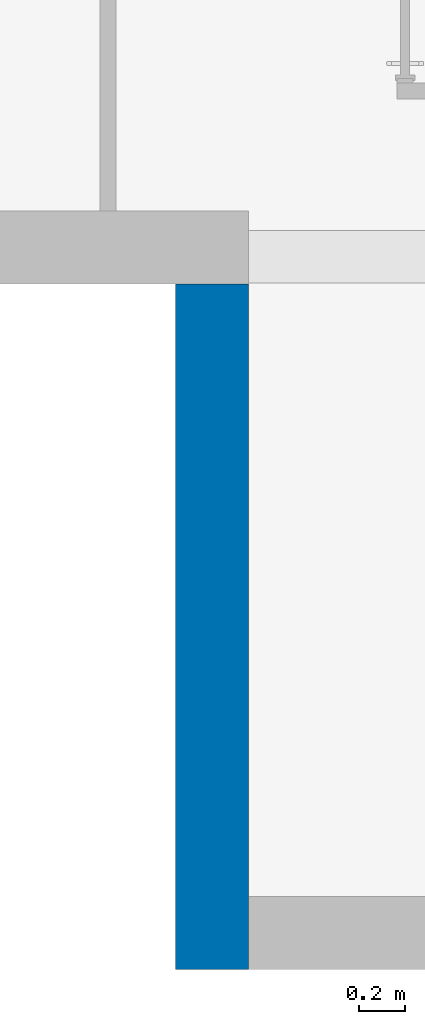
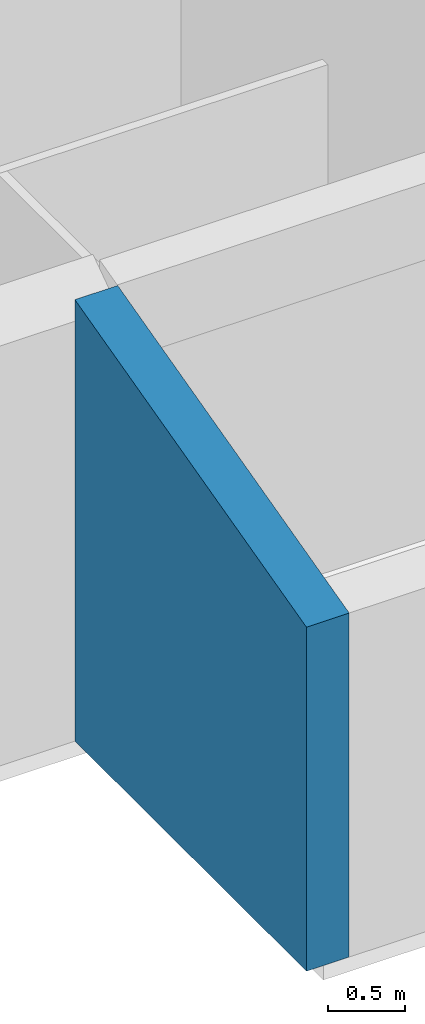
# One storey, part 7 of 50: 1 wall.
"""IFC2X3 building model written with IfcOpenShell, lengths in metres."""

from ifc_helpers import new_model, entity, si_unit, converted_unit, derived_unit, direction, frame, frame_2d, origin, place, context, subcontext, project, spatial, polyline, rectangle, extrude, clip, bounded_halfspace, material, layer, layer_set, layer_usage, type_object, element, save


model = new_model("IFC2X3")

# Units and contexts
model_context = context("Model", 3, precision=1e-05, world=origin(), true_north=direction((6.12303176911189e-17, 1.0)))
context_of_model = context(None, 3, precision=1e-05, world=origin(), true_north=direction((6.12303176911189e-17, 1.0)))
body_context = subcontext(model_context, "Body", "Model", "MODEL_VIEW")
ifc_project = project(units=[si_unit("LENGTHUNIT", "METRE"), si_unit("AREAUNIT", "SQUARE_METRE"), si_unit("VOLUMEUNIT", "CUBIC_METRE"), converted_unit("PLANEANGLEUNIT", "DEGREE", entity("IfcRatioMeasure", 0.0174532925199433), si_unit("PLANEANGLEUNIT", "RADIAN"), dimensions=[0, 0, 0, 0, 0, 0, 0]), si_unit("MASSUNIT", "GRAM", prefix="KILO"), si_unit("TIMEUNIT", "SECOND"), si_unit("FREQUENCYUNIT", "HERTZ"), si_unit("THERMODYNAMICTEMPERATUREUNIT", "DEGREE_CELSIUS"), derived_unit("THERMALTRANSMITTANCEUNIT", [(si_unit("MASSUNIT", "GRAM", prefix="KILO"), 1), (si_unit("THERMODYNAMICTEMPERATUREUNIT", "KELVIN"), -1), (si_unit("TIMEUNIT", "SECOND"), -3)]), derived_unit("VOLUMETRICFLOWRATEUNIT", [(si_unit("LENGTHUNIT", "METRE"), 3), (si_unit("TIMEUNIT", "SECOND"), -1)]), si_unit("ELECTRICCURRENTUNIT", "AMPERE"), si_unit("ELECTRICVOLTAGEUNIT", "VOLT"), si_unit("POWERUNIT", "WATT"), si_unit("FORCEUNIT", "NEWTON", prefix="KILO"), si_unit("ILLUMINANCEUNIT", "LUX"), si_unit("LUMINOUSFLUXUNIT", "LUMEN"), si_unit("LUMINOUSINTENSITYUNIT", "CANDELA"), si_unit("PRESSUREUNIT", "PASCAL")], contexts=[model_context, context_of_model])

# Site, building, storey
site_placement = place(None, origin())
site = spatial("IfcSite", under=ifc_project, at=site_placement, Name="Surface", CompositionType="ELEMENT")
building_placement = place(site_placement, origin())
building = spatial("IfcBuilding", under=site, at=building_placement, CompositionType="ELEMENT")
storey_placement = place(building_placement, frame((0.0, 0.0, 2.82)))
storey = spatial("IfcBuildingStorey", under=building, at=storey_placement, Name="ETAGE", CompositionType="ELEMENT", Elevation=2.82)

# Wall
ifc_material_1 = material(Name="Enduit  gris")
ifc_layer_1 = layer(ifc_material_1, 0.02)
ifc_material_2 = material(Name="Parpaing")
ifc_layer_2 = layer(ifc_material_2, 0.2)
ifc_material_3 = material(Name="Isolant")
ifc_layer_3 = layer(ifc_material_3, 0.1)
ifc_layer_set = layer_set([ifc_layer_1, ifc_layer_2, ifc_layer_3], Name="Mur de base:Ext. Parpaing 20 + Isolant 10 enduit gris")
ifc_layer_usage = layer_usage(ifc_layer_set, "AXIS2", "POSITIVE", -0.16)
wall_type = type_object("IfcWallType", Name="Mur de base:Ext. Parpaing 20 + Isolant 10 enduit gris", PredefinedType="STANDARD", material=ifc_layer_set)
wall_placement = place(storey_placement, frame((65.3346263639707, 79.8877566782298, 0.0), z_axis=(0.0, 0.0, 1.0), x_axis=(0.0, -1.0, 0.0)))
element("IfcWallStandardCase", 1, at=wall_placement, inside=storey, type_object=wall_type, material=ifc_layer_usage, Name="Mur de base:Ext. Parpaing 20 + Isolant 10 enduit gris", ObjectType="Mur de base:Ext. Parpaing 20 + Isolant 10 enduit gris", context=body_context, shape_type="Clipping", body=[
    clip(extrude(rectangle(XDim=3.00000000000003, YDim=0.319999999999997, at=frame_2d((1.50000000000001, 3.10862446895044e-15), x_axis=(-1.0, 0.0))), origin(), (0.0, 0.0, 1.0), 3.49084668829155), bounded_halfspace(frame((0.0, -0.160000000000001, 3.49084668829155), z_axis=(0.248864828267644, 0.0, 0.968538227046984), x_axis=(0.0, 1.0, 0.0)), False, frame((0.0, -0.160000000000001, 3.49084668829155)), polyline([(0.0, 0.0), (3.0, 0.0), (3.0, 0.320000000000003), (2.68000000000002, 0.319999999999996), (0.0, 0.319999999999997), (0.0, 0.0)]))),
])

save(model, "model.ifc")
